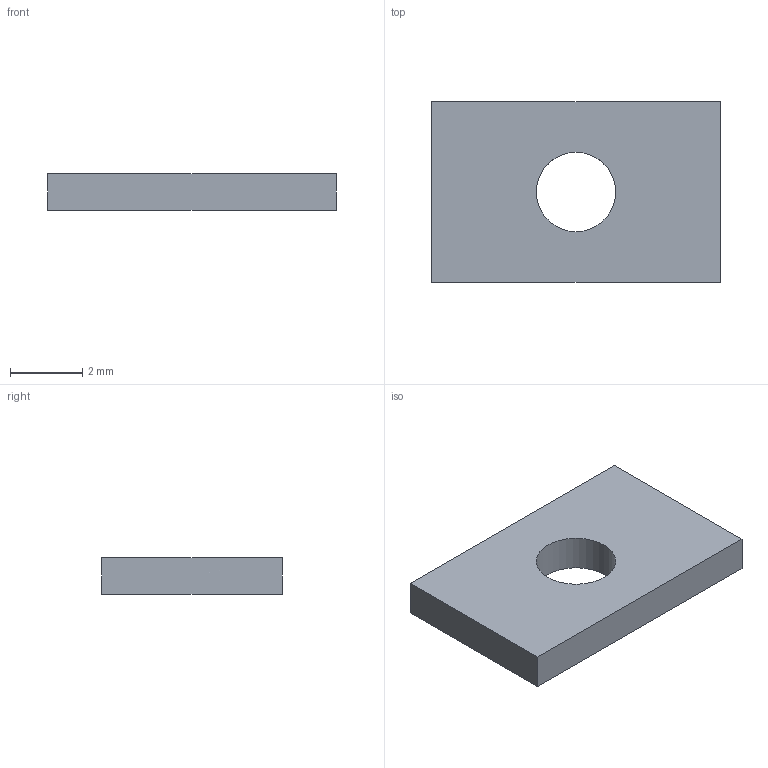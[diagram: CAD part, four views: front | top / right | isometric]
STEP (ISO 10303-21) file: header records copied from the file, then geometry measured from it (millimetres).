
FILE_DESCRIPTION(('FreeCAD Model'),'2;1');
FILE_NAME('Open CASCADE Shape Model','2026-11-12T17:34:40',('FreeCAD'),( 'FreeCAD'),'Open CASCADE STEP processor 7.8','FreeCAD','Unknown');
FILE_SCHEMA(('AUTOMOTIVE_DESIGN { 1 0 10303 214 1 1 1 1 }'));
Length unit declared in the file: millimetre
Products named in the file (1): Open CASCADE STEP translator 7.8 2
Bounding box: 8 x 5 x 1 mm (x, y, z)
Volume: 36.2 mm3; surface area: 105.3 mm2
Topology: 1 solids, 1 shells, 7 faces, 15 edges, 10 vertices
Faces by surface type: plane 6, cylinder 1
Full cylindrical faces by diameter (mm): 2.2 x1
Entity records: 205 total; most frequent: CARTESIAN_POINT 33, DIRECTION 33, ORIENTED_EDGE 30, EDGE_CURVE 15, LINE 13, VECTOR 13, AXIS2_PLACEMENT_3D 10, VERTEX_POINT 10
